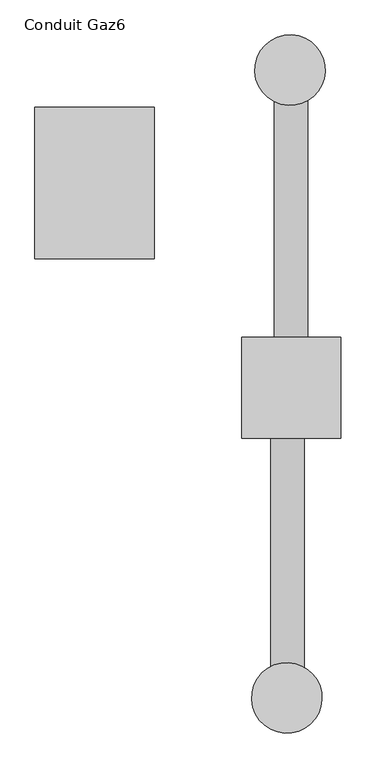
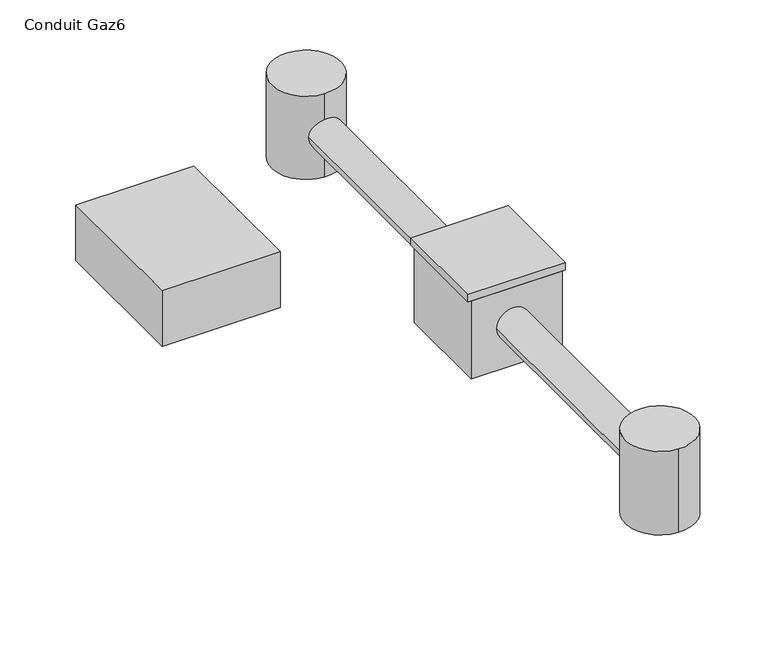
"""IFC4 building model written with IfcOpenShell, lengths in millimetres: proxy geometry, Conduit Gaz6 : Conduit Gaz."""

from ifc_helpers import new_model, si_unit, point, frame, frame_2d, origin, place, context, project, spatial, polyline, circle_curve, trimmed, segment, composite_curve, outline, extrude, source, transform, mapped, element, save


def conduit_gaz6_79e76099(model_context):
    return source(origin(), model_context, "Body", "SweptSolid", [
        extrude(outline(composite_curve([segment(trimmed(circle_curve(frame_2d((0.0, -100.0)), 100.0), [point((0.0, -200.0))], [point((0.0, 0.0))], False, "CARTESIAN"), True, "CONTINUOUS"), segment(trimmed(circle_curve(frame_2d((0.0, -100.0)), 100.0), [point((0.0, 0.0))], [point((0.0, -200.0))], False, "CARTESIAN"), True, "CONTINUOUS")], self_intersect=False)), frame((-30642.4064323, -12467.5222495, 4321.0831237), z_axis=(1.9013490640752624e-10, 1.0, 0.0), x_axis=(0.0, 0.0, 1.0)), (0.0, 0.0, 1.0), 1534.9287437),
        extrude(outline(composite_curve([segment(trimmed(circle_curve(frame_2d((0.0, -100.0)), 100.0), [point((0.0, -200.0))], [point((0.0, 0.0))], False, "CARTESIAN"), True, "CONTINUOUS"), segment(trimmed(circle_curve(frame_2d((0.0, -100.0)), 100.0), [point((0.0, 0.0))], [point((0.0, -200.0))], False, "CARTESIAN"), True, "CONTINUOUS")], self_intersect=False)), frame((-30662.4064323, -14530.0873144, 4321.0831237), z_axis=(1.9013490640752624e-10, 1.0, 0.0), x_axis=(0.0, 0.0, 1.0)), (0.0, 0.0, 1.0), 1482.5650649),
        extrude(outline(polyline([(-32268.9891695, -11074.5661032), (-31556.3128908, -11074.5661034), (-31556.3128909, -11979.0543065), (-32268.9891696, -11979.0543063), (-32268.9891695, -11074.5661032)])), frame((0.0, 0.0, 4053.3082742), z_axis=(0.0, 0.0, 1.0), x_axis=(1.0, 0.0, 0.0)), (0.0, 0.0, 1.0), 357.1559215),
        extrude(outline(polyline([(-31036.1289842, -12447.5222494), (-30446.1289842, -12447.5222495), (-30446.1289843, -13047.5222495), (-31036.1289843, -13047.5222494), (-31036.1289842, -12447.5222494)])), frame((0.0, 0.0, 4552.5023484), z_axis=(0.0, 0.0, 1.0), x_axis=(1.0, 0.0, 0.0)), (0.0, 0.0, 1.0), 47.2004824),
        extrude(outline(composite_curve([segment(trimmed(circle_curve(frame_2d((-30767.5797272, -14595.822974)), 210.0), [point((-30756.5891764, -14386.1107717))], [point((-30778.5702781, -14805.5351763))], False, "CARTESIAN"), True, "CONTINUOUS"), segment(trimmed(circle_curve(frame_2d((-30767.5797272, -14595.822974)), 210.0), [point((-30778.5702781, -14805.5351763))], [point((-30756.5891764, -14386.1107717))], False, "CARTESIAN"), True, "CONTINUOUS")], self_intersect=False)), frame((0.0, 0.0, 4053.3082742), z_axis=(0.0, 0.0, 1.0), x_axis=(1.0, 0.0, 0.0)), (0.0, 0.0, 1.0), 533.7816524),
        extrude(outline(composite_curve([segment(trimmed(circle_curve(frame_2d((-30748.5797272, -10853.822974)), 210.0), [point((-30737.5891764, -10644.1107717))], [point((-30759.5702781, -11063.5351763))], False, "CARTESIAN"), True, "CONTINUOUS"), segment(trimmed(circle_curve(frame_2d((-30748.5797272, -10853.822974)), 210.0), [point((-30759.5702781, -11063.5351763))], [point((-30737.5891764, -10644.1107717))], False, "CARTESIAN"), True, "CONTINUOUS")], self_intersect=False)), frame((0.0, 0.0, 4053.3082742), z_axis=(0.0, 0.0, 1.0), x_axis=(1.0, 0.0, 0.0)), (0.0, 0.0, 1.0), 533.7816524),
        extrude(outline(polyline([(-31016.1289842, -12451.6098055), (-30466.1289842, -12451.6098056), (-30466.1289843, -13047.5222495), (-31016.1289843, -13047.5222494), (-31016.1289842, -12451.6098055)])), frame((0.0, 0.0, 4053.3082742), z_axis=(0.0, 0.0, 1.0), x_axis=(1.0, 0.0, 0.0)), (0.0, 0.0, 1.0), 499.1940741),
    ])


if __name__ == "__main__":
    model = new_model("IFC4")
    model_context = context("Model", 3, world=origin())
    ifc_project = project(units=[si_unit("LENGTHUNIT", "METRE", prefix="MILLI")], contexts=[model_context])
    site = spatial("IfcSite", under=ifc_project)
    building = spatial("IfcBuilding", under=site)
    placement = place(None, origin())
    conduit_gaz6_shape = conduit_gaz6_79e76099(model_context)
    element("IfcBuildingElementProxy", 1, Name="Conduit Gaz6 : Conduit Gaz", ObjectType="Conduit Gaz6 : Conduit Gaz", at=placement, inside=building, context=model_context, shape_type="MappedRepresentation", body=[
        mapped(conduit_gaz6_shape, transform((0.0, 0.0, 0.0), x_axis=(1.0, 0.0, 0.0), y_axis=(0.0, 1.0, 0.0), z_axis=(0.0, 0.0, 1.0))),
    ])
    save(model, "model.ifc")
